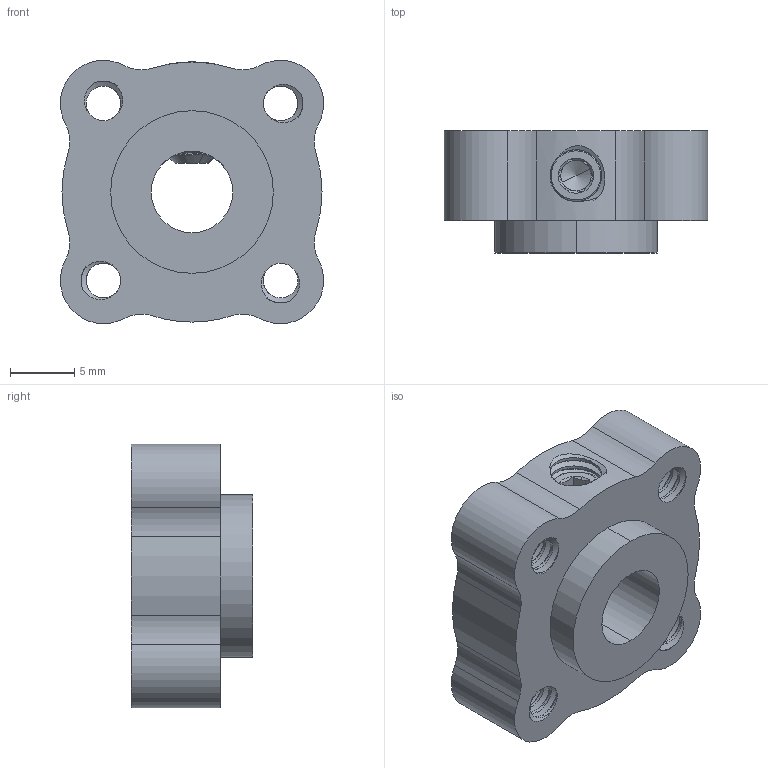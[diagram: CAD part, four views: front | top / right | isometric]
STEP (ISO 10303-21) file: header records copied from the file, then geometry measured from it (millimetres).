
FILE_DESCRIPTION (( 'STEP AP203' ), '1' );
FILE_NAME ('545548 assembly.STEP', '2016-08-17T18:37:38', ( '' ), ( '' ), 'SwSTEP 2.0', 'SolidWorks 2014', '' );
FILE_SCHEMA (( 'CONFIG_CONTROL_DESIGN' ));
Length unit declared in the file: inch
Products named in the file (3): 632138_91375A438; 545548; 545548 assembly
Assembly tree (2 placements, depth 2):
  545548 assembly
    545548
    632138_91375A438
Bounding box: 20.57 x 9.53 x 20.57 mm (x, y, z)
Volume: 2533 mm3; surface area: 2227.6 mm2
Topology: 2 solids, 2 shells, 281 faces, 808 edges, 529 vertices
Faces by surface type: cylinder 231, bspline 18, plane 16, cone 16
Entity records: 21434 total; most frequent: CARTESIAN_POINT 15098, ORIENTED_EDGE 1608, DIRECTION 959, EDGE_CURVE 804, VERTEX_POINT 529, AXIS2_PLACEMENT_3D 358, EDGE_LOOP 295, FACE_OUTER_BOUND 281
